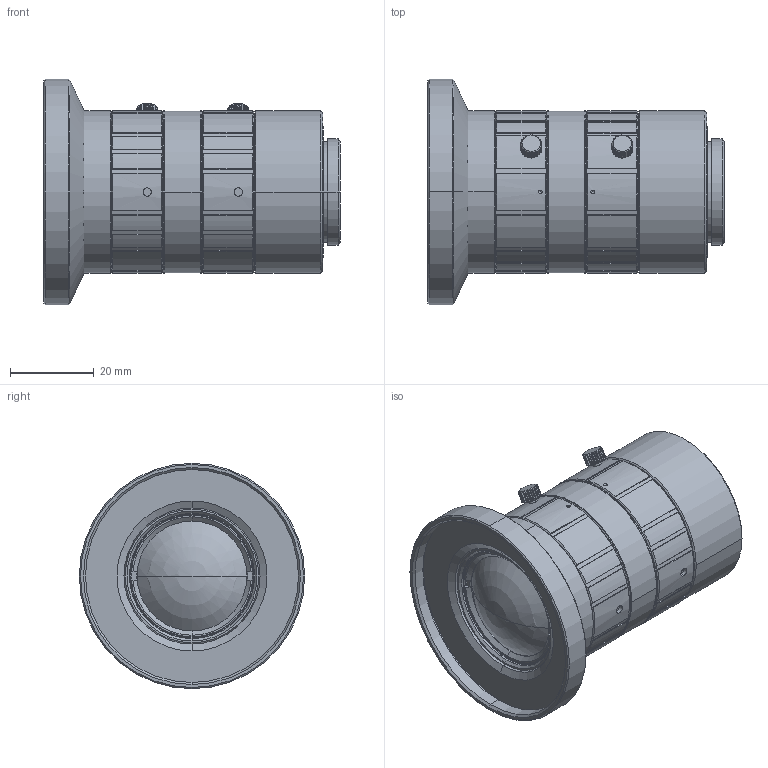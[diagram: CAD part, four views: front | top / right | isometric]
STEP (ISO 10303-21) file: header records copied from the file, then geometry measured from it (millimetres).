
FILE_DESCRIPTION(('CoCreate Modeling STEP Export'),'2;1');
FILE_NAME('CF8ZA-1S_3D.stp','2019-02-19T18:59:47',(''),(''),'CoCreate Modeling STEP processor for AP214 (Solid Model)','CoCreate Modeling 17.0B 09-Oct-2010 (C) Parametric Technology GmbH','');
FILE_SCHEMA(('AUTOMOTIVE_DESIGN { 1 0 10303 214 1 1 1 1 }'));
Length unit declared in the file: millimetre
Products named in the file (2): CF8ZA-1S_3D
Assembly tree (1 placements, depth 2):
  CF8ZA-1S_3D
    CF8ZA-1S_3D
Bounding box: 70.97 x 54 x 54 mm (x, y, z)
Volume: 81052.9 mm3; surface area: 14943.5 mm2
Topology: 1 solids, 3 shells, 395 faces, 1098 edges, 727 vertices
Faces by surface type: plane 209, cylinder 130, cone 54, sphere 2
Entity records: 18206 total; most frequent: CARTESIAN_POINT 5859, ORIENTED_EDGE 2184, DIRECTION 1612, EDGE_CURVE 1092, VERTEX_POINT 727, AXIS2_PLACEMENT_3D 623, EDGE_LOOP 423, B_SPLINE_CURVE_WITH_KNOTS 409
